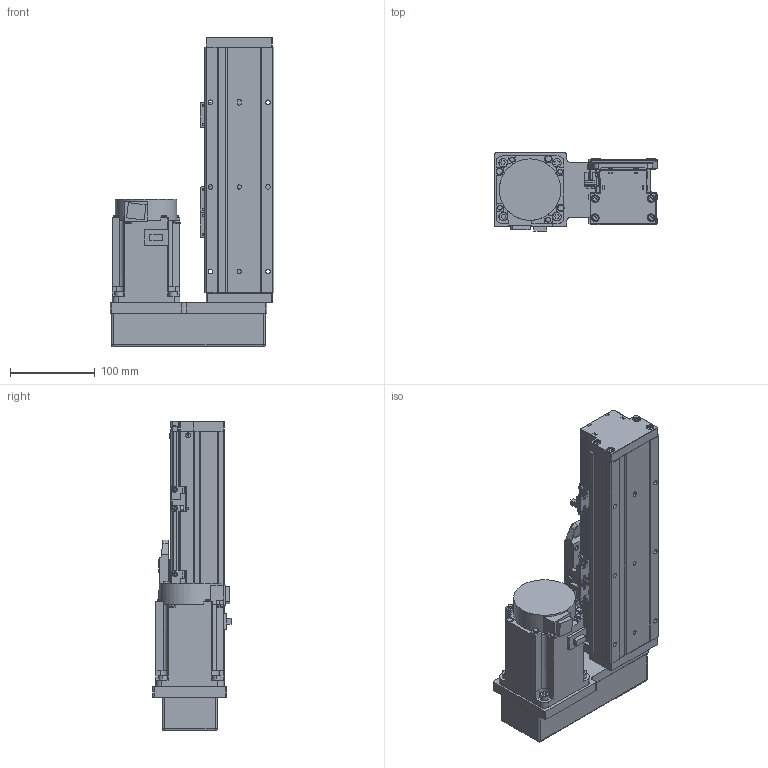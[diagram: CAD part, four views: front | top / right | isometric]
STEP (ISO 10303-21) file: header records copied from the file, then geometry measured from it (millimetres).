
FILE_DESCRIPTION (( 'STEP AP203' ), '1' );
FILE_NAME ('GTH8-100-BL-M75-C4.step', '2023-02-14T02:22:51', ( '微软用户' ), ( '微软中国' ), 'SwSTEP 2.0', 'SolidWorks 2020', '' );
FILE_SCHEMA (( 'CONFIG_CONTROL_DESIGN' ));
Length unit declared in the file: millimetre
Products named in the file (18): GTH50-024; GTH8-100-BL-M75-C4; GTH80-013; GTH50-023; GBT 70.3-M3℅6; GBT96.1-2002 3×0.8; GTH80-022; BTH-M3X5X6; GTH80-001_100; GBT 70.1-M3℅6; CTHA86-015-3_CTHA86-015-4; GTH80-003; GBT 70.1-M4×16; CTHA86-035; GTH80-004; GTH80-028; hg-kn73j_-s100; GTH80-006
Assembly tree (57 placements, depth 2):
  GTH8-100-BL-M75-C4
    GTH80-001_100
    GTH80-003
    GTH80-004
    GTH80-006
    GTH80-013
    GBT 70.3-M3℅6  x4
    GTH80-022
    GBT 70.1-M3℅6  x14
    GBT 70.1-M4×16  x8
    GTH80-028  x2
    GTH50-024  x3
    GTH50-023  x3
    GBT96.1-2002 3×0.8  x6
    BTH-M3X5X6  x8
    CTHA86-015-3_CTHA86-015-4
    CTHA86-035
    hg-kn73j_-s100
Bounding box: 193.5 x 92.3 x 366 mm (x, y, z)
Volume: 2804956.3 mm3; surface area: 337852.9 mm2
Topology: 59 solids, 59 shells, 2175 faces, 5034 edges, 3080 vertices
Faces by surface type: plane 1153, cylinder 607, cone 243, torus 158, sphere 12, bspline 2
Entity records: 38848 total; most frequent: CARTESIAN_POINT 6527, DIRECTION 6389, ORIENTED_EDGE 5878, EDGE_CURVE 2939, AXIS2_PLACEMENT_3D 2242, LINE 1905, VECTOR 1905, VERTEX_POINT 1855
